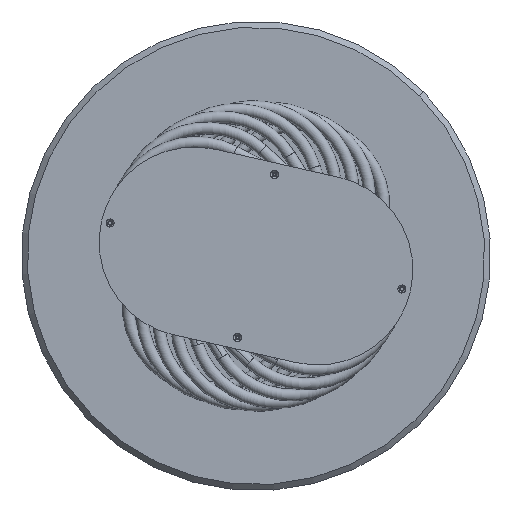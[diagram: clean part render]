
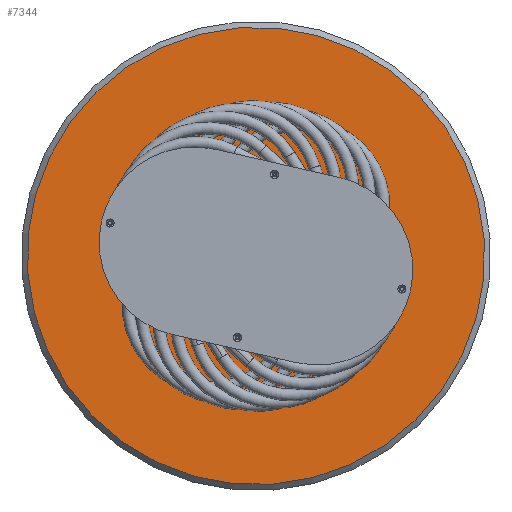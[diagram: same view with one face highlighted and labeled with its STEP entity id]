
A CAD part, front view. The second image highlights one B-rep face of the part: STEP entity #7344.
In plain terms, the highlighted planar face has unit normal (0, -1, 0).
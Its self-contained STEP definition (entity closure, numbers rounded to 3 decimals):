
#82 = AXIS2_PLACEMENT_3D ( 'NONE', #6038, #11175, #6892 ) ;
#527 = ORIENTED_EDGE ( 'NONE', *, *, #9676, .F. ) ;
#631 = CARTESIAN_POINT ( 'NONE',  ( 0., 0., 0. ) ) ;
#712 = CARTESIAN_POINT ( 'NONE',  ( 0., 0., 113.097 ) ) ;
#846 = CARTESIAN_POINT ( 'NONE',  ( -95., 0., -54.848 ) ) ;
#896 = EDGE_LOOP ( 'NONE', ( #9091, #2962 ) ) ;
#960 = VERTEX_POINT ( 'NONE', #1932 ) ;
#1035 = ORIENTED_EDGE ( 'NONE', *, *, #8823, .F. ) ;
#1631 = VERTEX_POINT ( 'NONE', #9038 ) ;
#1692 = CARTESIAN_POINT ( 'NONE',  ( 0., 0., 0. ) ) ;
#1745 = ORIENTED_EDGE ( 'NONE', *, *, #8803, .T. ) ;
#1932 = CARTESIAN_POINT ( 'NONE',  ( 95., 0., -58.248 ) ) ;
#2196 = VERTEX_POINT ( 'NONE', #712 ) ;
#2215 = CARTESIAN_POINT ( 'NONE',  ( 0., 0., 109.697 ) ) ;
#2497 = EDGE_CURVE ( 'NONE', #7145, #12081, #5989, .T. ) ;
#2519 = EDGE_CURVE ( 'NONE', #4035, #4658, #9578, .T. ) ;
#2560 = CIRCLE ( 'NONE', #10419, 3.4 ) ;
#2962 = ORIENTED_EDGE ( 'NONE', *, *, #8540, .F. ) ;
#3004 = DIRECTION ( 'NONE',  ( 0., -1., 0. ) ) ;
#3082 = CARTESIAN_POINT ( 'NONE',  ( -95., 0., -58.248 ) ) ;
#3339 = DIRECTION ( 'NONE',  ( 0., 0., -1. ) ) ;
#3410 = EDGE_LOOP ( 'NONE', ( #1035, #8085 ) ) ;
#3419 = FACE_BOUND ( 'NONE', #896, .T. ) ;
#3427 = CARTESIAN_POINT ( 'NONE',  ( -95., 0., -51.448 ) ) ;
#3445 = DIRECTION ( 'NONE',  ( 0., 0., -1. ) ) ;
#3576 = DIRECTION ( 'NONE',  ( 0., 0., -1. ) ) ;
#3578 = DIRECTION ( 'NONE',  ( 0., 0., -1. ) ) ;
#3643 = CARTESIAN_POINT ( 'NONE',  ( 0., 0., 0. ) ) ;
#3721 = ORIENTED_EDGE ( 'NONE', *, *, #2497, .F. ) ;
#3823 = EDGE_CURVE ( 'NONE', #1631, #9538, #2560, .T. ) ;
#3980 = AXIS2_PLACEMENT_3D ( 'NONE', #631, #11311, #5046 ) ;
#4035 = VERTEX_POINT ( 'NONE', #8522 ) ;
#4078 = CARTESIAN_POINT ( 'NONE',  ( 0., 0., 0. ) ) ;
#4319 = CARTESIAN_POINT ( 'NONE',  ( 0., 0., -3.4 ) ) ;
#4546 = FACE_BOUND ( 'NONE', #3410, .T. ) ;
#4658 = VERTEX_POINT ( 'NONE', #8211 ) ;
#4672 = EDGE_CURVE ( 'NONE', #12081, #7145, #9506, .T. ) ;
#4819 = ORIENTED_EDGE ( 'NONE', *, *, #4672, .F. ) ;
#5046 = DIRECTION ( 'NONE',  ( 0., 0., -1. ) ) ;
#5073 = DIRECTION ( 'NONE',  ( 0., -1., 0. ) ) ;
#5306 = AXIS2_PLACEMENT_3D ( 'NONE', #4078, #12648, #7330 ) ;
#5326 = AXIS2_PLACEMENT_3D ( 'NONE', #12224, #5838, #3578 ) ;
#5814 = DIRECTION ( 'NONE',  ( 0., 0., -1. ) ) ;
#5838 = DIRECTION ( 'NONE',  ( 0., -1., 0. ) ) ;
#5989 = CIRCLE ( 'NONE', #12705, 3.4 ) ;
#5994 = AXIS2_PLACEMENT_3D ( 'NONE', #2215, #12973, #3339 ) ;
#6003 = DIRECTION ( 'NONE',  ( 0., 0., -1. ) ) ;
#6038 = CARTESIAN_POINT ( 'NONE',  ( -95., 0., -54.848 ) ) ;
#6076 = CARTESIAN_POINT ( 'NONE',  ( 95., 0., -51.448 ) ) ;
#6144 = EDGE_LOOP ( 'NONE', ( #7993, #527 ) ) ;
#6326 = DIRECTION ( 'NONE',  ( 0., 0., -1. ) ) ;
#6518 = VERTEX_POINT ( 'NONE', #13067 ) ;
#6744 = FACE_OUTER_BOUND ( 'NONE', #13226, .T. ) ;
#6892 = DIRECTION ( 'NONE',  ( 0., 0., -1. ) ) ;
#7145 = VERTEX_POINT ( 'NONE', #3082 ) ;
#7253 = CARTESIAN_POINT ( 'NONE',  ( 95., 0., -54.848 ) ) ;
#7330 = DIRECTION ( 'NONE',  ( 0., 0., -1. ) ) ;
#7344 = ADVANCED_FACE ( 'NONE', ( #9896, #3419, #8019, #4546, #6744 ), #12298, .T. ) ;
#7684 = CARTESIAN_POINT ( 'NONE',  ( 0., 0., 109.697 ) ) ;
#7992 = CARTESIAN_POINT ( 'NONE',  ( 95., 0., -54.848 ) ) ;
#7993 = ORIENTED_EDGE ( 'NONE', *, *, #11519, .F. ) ;
#8019 = FACE_BOUND ( 'NONE', #6144, .T. ) ;
#8085 = ORIENTED_EDGE ( 'NONE', *, *, #3823, .F. ) ;
#8211 = CARTESIAN_POINT ( 'NONE',  ( 0., 0., -390. ) ) ;
#8522 = CARTESIAN_POINT ( 'NONE',  ( 0., 0., 390. ) ) ;
#8540 = EDGE_CURVE ( 'NONE', #11185, #960, #12724, .T. ) ;
#8668 = EDGE_LOOP ( 'NONE', ( #3721, #4819 ) ) ;
#8803 = EDGE_CURVE ( 'NONE', #4658, #4035, #13826, .T. ) ;
#8823 = EDGE_CURVE ( 'NONE', #9538, #1631, #13181, .T. ) ;
#8933 = AXIS2_PLACEMENT_3D ( 'NONE', #7253, #3004, #11528 ) ;
#8935 = DIRECTION ( 'NONE',  ( 0., -1., 0. ) ) ;
#8940 = EDGE_CURVE ( 'NONE', #960, #11185, #9607, .T. ) ;
#9036 = AXIS2_PLACEMENT_3D ( 'NONE', #7684, #13293, #3445 ) ;
#9038 = CARTESIAN_POINT ( 'NONE',  ( 0., 0., 3.4 ) ) ;
#9091 = ORIENTED_EDGE ( 'NONE', *, *, #8940, .F. ) ;
#9239 = ORIENTED_EDGE ( 'NONE', *, *, #2519, .T. ) ;
#9506 = CIRCLE ( 'NONE', #82, 3.4 ) ;
#9538 = VERTEX_POINT ( 'NONE', #4319 ) ;
#9573 = DIRECTION ( 'NONE',  ( 0., -1., 0. ) ) ;
#9578 = CIRCLE ( 'NONE', #5306, 390. ) ;
#9607 = CIRCLE ( 'NONE', #9830, 3.4 ) ;
#9676 = EDGE_CURVE ( 'NONE', #2196, #6518, #10035, .T. ) ;
#9830 = AXIS2_PLACEMENT_3D ( 'NONE', #7992, #13380, #5814 ) ;
#9896 = FACE_BOUND ( 'NONE', #8668, .T. ) ;
#10035 = CIRCLE ( 'NONE', #5994, 3.4 ) ;
#10419 = AXIS2_PLACEMENT_3D ( 'NONE', #1692, #5073, #6003 ) ;
#10467 = AXIS2_PLACEMENT_3D ( 'NONE', #3643, #8935, #3576 ) ;
#10817 = CIRCLE ( 'NONE', #9036, 3.4 ) ;
#11175 = DIRECTION ( 'NONE',  ( 0., -1., 0. ) ) ;
#11185 = VERTEX_POINT ( 'NONE', #6076 ) ;
#11311 = DIRECTION ( 'NONE',  ( 0., -1., 0. ) ) ;
#11519 = EDGE_CURVE ( 'NONE', #6518, #2196, #10817, .T. ) ;
#11528 = DIRECTION ( 'NONE',  ( 0., 0., -1. ) ) ;
#12081 = VERTEX_POINT ( 'NONE', #3427 ) ;
#12224 = CARTESIAN_POINT ( 'NONE',  ( 0., 0., 0. ) ) ;
#12298 = PLANE ( 'NONE',  #10467 ) ;
#12648 = DIRECTION ( 'NONE',  ( 0., -1., 0. ) ) ;
#12705 = AXIS2_PLACEMENT_3D ( 'NONE', #846, #9573, #6326 ) ;
#12724 = CIRCLE ( 'NONE', #8933, 3.4 ) ;
#12973 = DIRECTION ( 'NONE',  ( 0., -1., 0. ) ) ;
#13067 = CARTESIAN_POINT ( 'NONE',  ( 0., 0., 106.297 ) ) ;
#13181 = CIRCLE ( 'NONE', #3980, 3.4 ) ;
#13226 = EDGE_LOOP ( 'NONE', ( #9239, #1745 ) ) ;
#13293 = DIRECTION ( 'NONE',  ( 0., -1., 0. ) ) ;
#13380 = DIRECTION ( 'NONE',  ( 0., -1., 0. ) ) ;
#13826 = CIRCLE ( 'NONE', #5326, 390. ) ;
